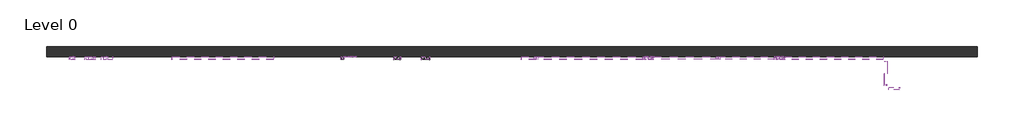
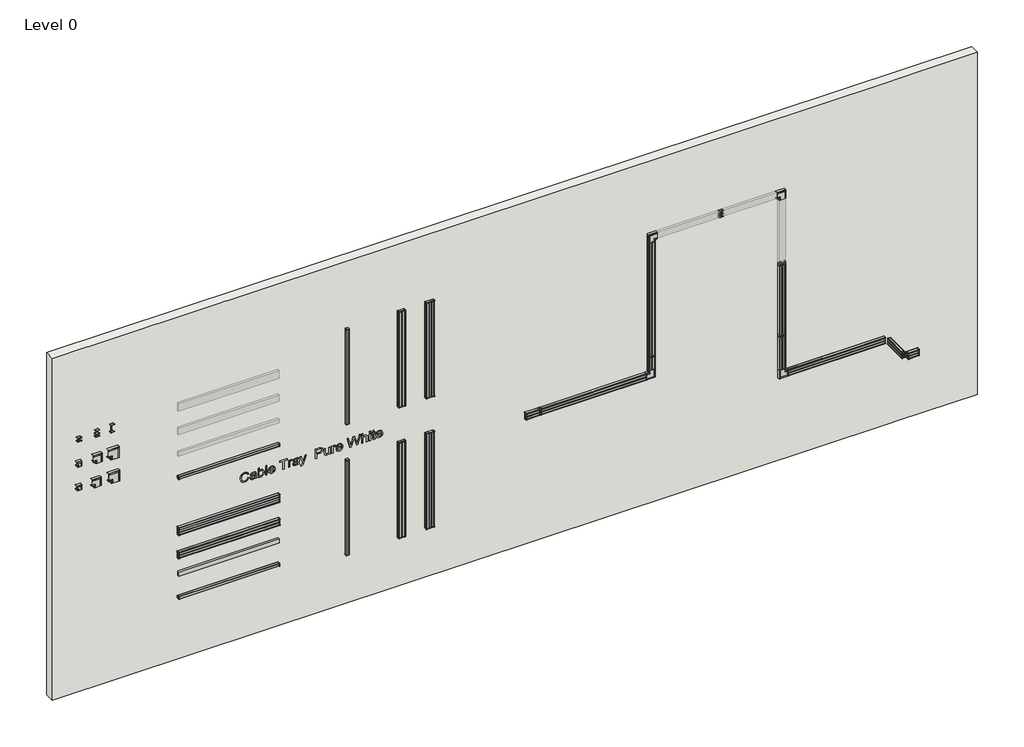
# One storey, incomplete: 20 cable carrier segments, 20 proxies, 18 cable carrier fittings, 1 wall.
"""IFC4 building model written with IfcOpenShell, lengths in millimetres."""

from ifc_helpers import new_model, si_unit, frame, origin, place, context, project, spatial, polyline, outline, extrude, faceted_brep, transform, mapped, element, save
from components import natural_anodized_aluminium_24a87ea1, natural_anodized_aluminium_b63ba4a8, natural_anodized_aluminium_cb93105c, natural_anodized_aluminium_039d2869, natural_anodized_aluminium_3c063e0a, natural_anodized_aluminium_cf1d3b34, natural_anodized_aluminium_76fae776, natural_anodized_aluminium_1c32bed1, natural_anodized_aluminium_2c81c147, natural_anodized_aluminium_9d60b319, natural_anodized_aluminium_06e3204e, natural_anodized_aluminium_e942fa28, natural_anodized_aluminium_e169edea, natural_anodized_aluminium_261b038a, natural_anodized_aluminium_ffbb5359, natural_anodized_aluminium_de79a6d9, ral_9011_black_7d60d0b3, ral_9011_black_1f146644, ral_9011_black_cd5e6a1d

model = new_model("IFC4")

# Units and contexts
model_context = context("Model", 3, world=origin())
ifc_project = project(units=[si_unit("LENGTHUNIT", "METRE", prefix="MILLI")], contexts=[model_context])

# Site, building, storey
site = spatial("IfcSite", under=ifc_project)
building = spatial("IfcBuilding", under=site)
storey = spatial("IfcBuildingStorey", under=building, Name="Level 0", Elevation=0.0)

# Proxies
placement = place(None, origin())
element("IfcBuildingElementProxy", 1, Name="200mm Arial", ObjectType="200mm Arial", at=placement, inside=storey, context=model_context, shape_type="SweptSolid", body=[
    extrude(outline(polyline([(3330.4407483, -13810.5435834), (3309.3590175, -13818.5063238), (3294.1907483, -13831.4330065), (3285.0320944, -13848.5544007), (3281.9792098, -13869.1012757), (3284.2207964, -13886.7274776), (3290.945556, -13903.0676219), (3302.2015656, -13916.6974296), (3318.0369021, -13926.1926219), (3337.7003637, -13931.7635353), (3360.4407483, -13933.6205065), (3379.0104598, -13932.0519969), (3397.0272868, -13927.346468), (3412.9647868, -13918.7707469), (3425.2965175, -13905.5916603), (3433.1931521, -13888.2238719), (3435.8253637, -13867.082045), (3433.4515656, -13848.7406988), (3426.3301714, -13833.8128142), (3414.0164694, -13822.1541603), (3396.0657483, -13813.6205065), (3401.9311329, -13789.0051219), (3426.6426714, -13799.8765161), (3445.1042098, -13816.8176219), (3456.6066137, -13839.1313238), (3460.4407483, -13866.1205065), (3457.4780079, -13890.8560834), (3448.5897868, -13913.4281988), (3433.992431, -13932.4606507), (3413.9022868, -13946.5772373), (3389.1066137, -13955.3212276), (3360.3926714, -13958.2358911), (3333.1691137, -13955.6577661), (3307.7484406, -13947.9233911), (3286.1258444, -13935.2551219), (3270.2965175, -13917.8753142), (3260.5969983, -13895.2010353), (3257.3638252, -13866.6493526), (3261.6366618, -13838.5243526), (3274.4551714, -13815.1108911), (3295.4107002, -13797.2863719), (3324.0945944, -13785.9281988), (3330.4407483, -13810.5435834)])), frame((0.0, 2566.5081828, 0.0), z_axis=(0.0, 1.0, 0.0), x_axis=(0.0, 0.0, 1.0)), (0.0, 0.0, 1.0), 5.0),
    extrude(outline(polyline([(3278.9022868, -13662.8512757), (3260.4407483, -13656.6974296), (3260.4407483, -13632.082045), (3281.1378637, -13636.9858911), (3323.9022868, -13638.2358911), (3354.5272868, -13638.2358911), (3376.0657483, -13639.4378142), (3392.7724791, -13646.9858911), (3403.758056, -13663.8368526), (3408.133056, -13693.6685834), (3403.1811329, -13726.144545), (3397.1835368, -13738.5123334), (3389.0945944, -13747.5868526), (3365.0561329, -13758.2358911), (3361.9792098, -13733.6205065), (3372.2135848, -13728.7286796), (3378.7820944, -13721.7455065), (3383.5176714, -13696.8416603), (3381.7388252, -13681.0003142), (3376.4022868, -13669.6301219), (3369.2147868, -13664.5459873), (3358.2292098, -13662.8512757), (3352.7484406, -13662.9955065), (3344.2869021, -13705.6878142), (3340.5849791, -13726.9858911), (3332.508056, -13744.221468), (3318.3734406, -13756.6012757), (3298.9022868, -13761.3128142), (3282.351806, -13758.1938238), (3269.0465175, -13748.8368526), (3260.2844983, -13733.6625738), (3257.3638252, -13713.0916603), (3262.2195944, -13686.721468), (3278.9022868, -13662.8512757)]), holes=[polyline([(3328.133056, -13662.8512757), (3321.1619021, -13662.9955065), (3302.1234406, -13666.8897373), (3287.8686329, -13682.9474296), (3283.4515656, -13694.6301219), (3281.9792098, -13707.8512757), (3283.3133444, -13720.3212276), (3287.3157483, -13729.3656988), (3293.3133444, -13734.8644969), (3300.633056, -13736.6974296), (3310.1042098, -13733.332045), (3316.5945944, -13723.7406988), (3320.5849791, -13702.5628142), (3328.133056, -13662.8512757)])]), frame((0.0, 2566.5081828, 0.0), z_axis=(0.0, 1.0, 0.0), x_axis=(0.0, 0.0, 1.0)), (0.0, 0.0, 1.0), 5.0),
    extrude(outline(polyline([(3260.4407483, -13579.7743526), (3283.4695944, -13579.7743526), (3263.8902675, -13563.1517565), (3258.9954358, -13552.8662998), (3257.3638252, -13541.2647373), (3262.4239214, -13518.3260353), (3277.6042098, -13498.9330065), (3302.0513252, -13485.7178623), (3334.9119021, -13481.3128142), (3364.2628637, -13485.5676219), (3387.7003637, -13497.3224296), (3402.7724791, -13516.457045), (3408.133056, -13541.1205065), (3402.1835368, -13562.5387757), (3384.3349791, -13579.7743526), (3457.3638252, -13579.7743526), (3457.3638252, -13604.3897373), (3260.4407483, -13604.3897373), (3260.4407483, -13579.7743526)]), holes=[polyline([(3333.758056, -13579.7743526), (3355.0921906, -13576.9979103), (3370.7292098, -13568.6685834), (3380.320556, -13556.5291603), (3383.5176714, -13542.3224296), (3380.4287291, -13528.3380546), (3371.1619021, -13516.5772373), (3355.4167098, -13508.5904584), (3332.8926714, -13505.9281988), (3310.6931521, -13508.7046411), (3294.7676714, -13517.033968), (3285.1763252, -13529.1733911), (3281.9792098, -13543.3801219), (3286.3181521, -13560.1469488), (3299.3349791, -13573.0435834), (3313.2292098, -13578.0916603), (3333.758056, -13579.7743526)])]), frame((0.0, 2566.5081828, 0.0), z_axis=(0.0, 1.0, 0.0), x_axis=(0.0, 0.0, 1.0)), (0.0, 0.0, 1.0), 5.0),
    extrude(outline(polyline([(-13429.0051219, 2566.5081828), (-13453.6205065, 2566.5081828), (-13453.6205065, 2571.5081828), (-13429.0051219, 2571.5081828), (-13429.0051219, 2566.5081828)])), frame((0.0, 0.0, 3260.4407483), z_axis=(0.0, 0.0, 1.0), x_axis=(1.0, 0.0, 0.0)), (0.0, 0.0, 1.0), 196.9230769),
    extrude(outline(polyline([(3303.5176714, -13290.832045), (3293.7941137, -13297.7310834), (3287.1234406, -13306.6974296), (3281.9792098, -13330.832045), (3284.7556521, -13348.25392), (3293.0849791, -13362.5387757), (3306.6306521, -13372.4366123), (3325.0561329, -13376.6974296), (3325.0561329, -13266.0724296), (3331.6907483, -13265.9281988), (3363.9623829, -13270.59767), (3388.0849791, -13284.6060834), (3403.1210368, -13305.9702661), (3408.133056, -13332.707045), (3403.1090175, -13360.3031988), (3388.0369021, -13382.2262757), (3363.8662291, -13396.5411796), (3331.5465175, -13401.3128142), (3300.2784887, -13396.5892565), (3276.8590175, -13382.4185834), (3262.2376233, -13360.1950257), (3257.3638252, -13331.3128142), (3260.1883444, -13308.0135353), (3268.6619021, -13289.269545), (3282.2556521, -13275.393343), (3300.4407483, -13266.6974296), (3303.5176714, -13290.832045)]), holes=[polyline([(3349.6715175, -13376.6974296), (3363.5477194, -13372.6529584), (3374.3109406, -13363.1156988), (3381.2159887, -13349.3957469), (3383.5176714, -13332.8031988), (3380.633056, -13314.7503142), (3371.9792098, -13300.3993526), (3362.6763252, -13293.8729103), (3349.6715175, -13290.5435834), (3349.6715175, -13376.6974296)])]), frame((0.0, 2566.5081828, 0.0), z_axis=(0.0, 1.0, 0.0), x_axis=(0.0, 0.0, 1.0)), (0.0, 0.0, 1.0), 5.0),
    extrude(outline(polyline([(3260.4407483, -13112.082045), (3260.4407483, -13087.4666603), (3432.7484406, -13087.4666603), (3432.7484406, -13022.8512757), (3457.3638252, -13022.8512757), (3457.3638252, -13176.6974296), (3432.7484406, -13176.6974296), (3432.7484406, -13112.082045), (3260.4407483, -13112.082045)])), frame((0.0, 2566.5081828, 0.0), z_axis=(0.0, 1.0, 0.0), x_axis=(0.0, 0.0, 1.0)), (0.0, 0.0, 1.0), 5.0),
    extrude(outline(polyline([(3260.4407483, -12998.2358911), (3260.4407483, -12973.6205065), (3336.4503637, -12973.6205065), (3365.2003637, -12969.6301219), (3378.6619021, -12960.7599296), (3383.5176714, -12946.8416603), (3378.4695944, -12929.533968), (3400.5369021, -12921.3128142), (3406.2340175, -12933.7647373), (3408.133056, -12946.0243526), (3403.3734406, -12961.408968), (3383.6619021, -12976.6974296), (3405.0561329, -12976.6974296), (3405.0561329, -12998.2358911), (3260.4407483, -12998.2358911)])), frame((0.0, 2566.5081828, 0.0), z_axis=(0.0, 1.0, 0.0), x_axis=(0.0, 0.0, 1.0)), (0.0, 0.0, 1.0), 5.0),
    extrude(outline(polyline([(3278.9022868, -12813.6205065), (3260.4407483, -12807.4666603), (3260.4407483, -12782.8512757), (3281.1378637, -12787.7551219), (3323.9022868, -12789.0051219), (3354.5272868, -12789.0051219), (3376.0657483, -12790.207045), (3392.7724791, -12797.7551219), (3403.758056, -12814.6060834), (3408.133056, -12844.4378142), (3403.1811329, -12876.9137757), (3397.1835368, -12889.2815642), (3389.0945944, -12898.3560834), (3365.0561329, -12909.0051219), (3361.9792098, -12884.3897373), (3372.2135848, -12879.4979103), (3378.7820944, -12872.5147373), (3383.5176714, -12847.6108911), (3381.7388252, -12831.769545), (3376.4022868, -12820.3993526), (3369.2147868, -12815.315218), (3358.2292098, -12813.6205065), (3352.7484406, -12813.7647373), (3344.2869021, -12856.457045), (3340.5849791, -12877.7551219), (3332.508056, -12894.9906988), (3318.3734406, -12907.3705065), (3298.9022868, -12912.082045), (3282.351806, -12908.9630546), (3269.0465175, -12899.6060834), (3260.2844983, -12884.4318046), (3257.3638252, -12863.8608911), (3262.2195944, -12837.4906988), (3278.9022868, -12813.6205065)]), holes=[polyline([(3328.133056, -12813.6205065), (3321.1619021, -12813.7647373), (3302.1234406, -12817.658968), (3287.8686329, -12833.7166603), (3283.4515656, -12845.3993526), (3281.9792098, -12858.6205065), (3283.3133444, -12871.0904584), (3287.3157483, -12880.1349296), (3293.3133444, -12885.6337276), (3300.633056, -12887.4666603), (3310.1042098, -12884.1012757), (3316.5945944, -12874.5099296), (3320.5849791, -12853.332045), (3328.133056, -12813.6205065)])]), frame((0.0, 2566.5081828, 0.0), z_axis=(0.0, 1.0, 0.0), x_axis=(0.0, 0.0, 1.0)), (0.0, 0.0, 1.0), 5.0),
    extrude(outline(polyline([(3205.0561329, -12755.158968), (3201.9792098, -12740.1108911), (3207.508056, -12720.9281988), (3224.8638252, -12706.6493526), (3256.9792098, -12693.5724296), (3405.0561329, -12643.2358911), (3405.0561329, -12669.0051219), (3321.0176714, -12697.5147373), (3292.6522868, -12707.1781988), (3324.7676714, -12716.8416603), (3405.0561329, -12744.582045), (3405.0561329, -12770.5435834), (3260.9695944, -12718.2358911), (3255.008056, -12720.158968), (3236.883056, -12726.8897373), (3229.3109406, -12734.0531988), (3226.5945944, -12745.7358911), (3228.758056, -12758.2358911), (3205.0561329, -12755.158968)])), frame((0.0, 2566.5081828, 0.0), z_axis=(0.0, 1.0, 0.0), x_axis=(0.0, 0.0, 1.0)), (0.0, 0.0, 1.0), 5.0),
    extrude(outline(polyline([(3260.4407483, -12465.9281988), (3260.4407483, -12441.3128142), (3340.4407483, -12441.3128142), (3340.4407483, -12391.2647373), (3344.7917098, -12356.2947853), (3350.2304118, -12343.5919608), (3357.8445944, -12334.0772373), (3377.1835368, -12322.1962276), (3400.3926714, -12318.2358911), (3427.2436329, -12324.1012757), (3438.1210368, -12330.91017), (3446.2820944, -12339.6060834), (3455.4888252, -12363.5243526), (3457.3638252, -12392.9474296), (3457.3638252, -12465.9281988), (3260.4407483, -12465.9281988)]), holes=[polyline([(3365.0561329, -12441.3128142), (3432.7484406, -12441.3128142), (3432.7484406, -12390.3993526), (3431.0657483, -12365.783968), (3426.9311329, -12356.487093), (3419.9119021, -12349.1733911), (3410.5849791, -12344.4318046), (3399.5272868, -12342.8512757), (3384.9719983, -12345.5315642), (3374.0945944, -12353.5724296), (3367.3157483, -12367.9955065), (3365.0561329, -12389.8224296), (3365.0561329, -12441.3128142)])]), frame((0.0, 2566.5081828, 0.0), z_axis=(0.0, 1.0, 0.0), x_axis=(0.0, 0.0, 1.0)), (0.0, 0.0, 1.0), 5.0),
    extrude(outline(polyline([(3260.4407483, -12195.158968), (3260.4407483, -12170.5435834), (3405.0561329, -12170.5435834), (3405.0561329, -12195.158968), (3329.8157483, -12195.158968), (3302.3878637, -12199.1493526), (3293.9323348, -12204.5399776), (3287.4599791, -12212.7310834), (3281.9792098, -12233.283968), (3287.3397868, -12251.6253142), (3293.7039694, -12257.7731507), (3302.0753637, -12261.3608911), (3327.1715175, -12262.8512757), (3405.0561329, -12262.8512757), (3405.0561329, -12287.4666603), (3315.5849791, -12287.4666603), (3292.7003637, -12286.0243526), (3274.5753637, -12278.6926219), (3262.2676714, -12262.7310834), (3257.3638252, -12239.582045), (3259.1096185, -12226.2767565), (3264.3469983, -12214.4378142), (3273.0759646, -12204.065218), (3285.2965175, -12195.158968), (3260.4407483, -12195.158968)])), frame((0.0, 2566.5081828, 0.0), z_axis=(0.0, 1.0, 0.0), x_axis=(0.0, 0.0, 1.0)), (0.0, 0.0, 1.0), 5.0),
    extrude(outline(polyline([(3260.4407483, -12136.6974296), (3260.4407483, -12112.082045), (3336.4503637, -12112.082045), (3365.2003637, -12108.0916603), (3378.6619021, -12099.221468), (3383.5176714, -12085.3031988), (3378.4695944, -12067.9955065), (3400.5369021, -12059.7743526), (3406.2340175, -12072.2262757), (3408.133056, -12084.4858911), (3403.3734406, -12099.8705065), (3383.6619021, -12115.158968), (3405.0561329, -12115.158968), (3405.0561329, -12136.6974296), (3260.4407483, -12136.6974296)])), frame((0.0, 2566.5081828, 0.0), z_axis=(0.0, 1.0, 0.0), x_axis=(0.0, 0.0, 1.0)), (0.0, 0.0, 1.0), 5.0),
    extrude(outline(polyline([(3303.5176714, -11943.1397373), (3293.7941137, -11950.0387757), (3287.1234406, -11959.0051219), (3281.9792098, -11983.1397373), (3284.7556521, -12000.5616123), (3293.0849791, -12014.846468), (3306.6306521, -12024.7443046), (3325.0561329, -12029.0051219), (3325.0561329, -11918.3801219), (3331.6907483, -11918.2358911), (3363.9623829, -11922.9053623), (3388.0849791, -11936.9137757), (3403.1210368, -11958.2779584), (3408.133056, -11985.0147373), (3403.1090175, -12012.6108911), (3388.0369021, -12034.533968), (3363.8662291, -12048.8488719), (3331.5465175, -12053.6205065), (3300.2784887, -12048.8969488), (3276.8590175, -12034.7262757), (3262.2376233, -12012.502718), (3257.3638252, -11983.6205065), (3260.1883444, -11960.3212276), (3268.6619021, -11941.5772373), (3282.2556521, -11927.7010353), (3300.4407483, -11919.0051219), (3303.5176714, -11943.1397373)]), holes=[polyline([(3349.6715175, -12029.0051219), (3363.5477194, -12024.9606507), (3374.3109406, -12015.4233911), (3381.2159887, -12001.7034392), (3383.5176714, -11985.1108911), (3380.633056, -11967.0580065), (3371.9792098, -11952.707045), (3362.6763252, -11946.1806026), (3349.6715175, -11942.8512757), (3349.6715175, -12029.0051219)])]), frame((0.0, 2566.5081828, 0.0), z_axis=(0.0, 1.0, 0.0), x_axis=(0.0, 0.0, 1.0)), (0.0, 0.0, 1.0), 5.0),
    extrude(outline(polyline([(3260.4407483, -11778.3801219), (3260.4407483, -11748.6685834), (3408.0369021, -11705.6397373), (3433.5657483, -11698.2358911), (3412.3638252, -11691.6493526), (3260.4407483, -11644.4378142), (3260.4407483, -11618.1397373), (3457.3638252, -11564.3897373), (3457.3638252, -11589.7743526), (3326.7869021, -11621.2166603), (3287.9888252, -11630.5435834), (3360.2003637, -11651.6493526), (3457.3638252, -11680.0147373), (3457.3638252, -11716.6012757), (3323.3253637, -11755.6397373), (3287.9888252, -11765.9281988), (3327.9407483, -11775.5435834), (3457.3638252, -11806.6974296), (3457.3638252, -11832.082045), (3260.4407483, -11778.3801219)])), frame((0.0, 2566.5081828, 0.0), z_axis=(0.0, 1.0, 0.0), x_axis=(0.0, 0.0, 1.0)), (0.0, 0.0, 1.0), 5.0),
    extrude(outline(polyline([(3260.4407483, -11542.8512757), (3260.4407483, -11518.2358911), (3337.2676714, -11518.2358911), (3363.1811329, -11514.221468), (3371.5825752, -11508.8488719), (3378.0369021, -11500.7599296), (3383.5176714, -11480.5916603), (3381.4864214, -11467.8512757), (3375.3926714, -11458.3801219), (3364.8397868, -11452.502718), (3349.4311329, -11450.5435834), (3260.4407483, -11450.5435834), (3260.4407483, -11425.9281988), (3351.9792098, -11425.9281988), (3370.6691137, -11427.190218), (3384.3349791, -11430.9762757), (3394.2808925, -11437.6950257), (3401.8109406, -11447.7551219), (3406.5525271, -11460.5315642), (3408.133056, -11475.3993526), (3402.3397868, -11499.0411796), (3384.9599791, -11518.2358911), (3457.3638252, -11518.2358911), (3457.3638252, -11542.8512757), (3260.4407483, -11542.8512757)])), frame((0.0, 2566.5081828, 0.0), z_axis=(0.0, 1.0, 0.0), x_axis=(0.0, 0.0, 1.0)), (0.0, 0.0, 1.0), 5.0),
    extrude(outline(polyline([(-11367.4666603, 2566.5081828), (-11392.082045, 2566.5081828), (-11392.082045, 2571.5081828), (-11367.4666603, 2571.5081828), (-11367.4666603, 2566.5081828)])), frame((0.0, 0.0, 3432.7484406), z_axis=(0.0, 0.0, 1.0), x_axis=(1.0, 0.0, 0.0)), (0.0, 0.0, 1.0), 24.6153846),
    extrude(outline(polyline([(-11367.4666603, 2566.5081828), (-11392.082045, 2566.5081828), (-11392.082045, 2571.5081828), (-11367.4666603, 2571.5081828), (-11367.4666603, 2566.5081828)])), frame((0.0, 0.0, 3260.4407483), z_axis=(0.0, 0.0, 1.0), x_axis=(1.0, 0.0, 0.0)), (0.0, 0.0, 1.0), 144.6153846),
    extrude(outline(polyline([(3280.9695944, -11278.2358911), (3281.9792098, -11288.957045), (3283.6378637, -11297.346468), (3288.133056, -11301.5531988), (3300.8253637, -11302.8512757), (3380.4407483, -11302.8512757), (3380.4407483, -11278.2358911), (3405.0561329, -11278.2358911), (3405.0561329, -11302.8512757), (3454.6715175, -11302.8512757), (3440.2003637, -11327.4666603), (3405.0561329, -11327.4666603), (3405.0561329, -11345.9281988), (3380.4407483, -11345.9281988), (3380.4407483, -11327.4666603), (3300.1042098, -11327.4666603), (3272.1715175, -11324.4858911), (3261.4503637, -11314.1974296), (3257.3638252, -11293.5724296), (3259.7195944, -11275.158968), (3280.9695944, -11278.2358911)])), frame((0.0, 2566.5081828, 0.0), z_axis=(0.0, 1.0, 0.0), x_axis=(0.0, 0.0, 1.0)), (0.0, 0.0, 1.0), 5.0),
    extrude(outline(polyline([(3303.5176714, -11152.3705065), (3293.7941137, -11159.269545), (3287.1234406, -11168.2358911), (3281.9792098, -11192.3705065), (3284.7556521, -11209.7923815), (3293.0849791, -11224.0772373), (3306.6306521, -11233.9750738), (3325.0561329, -11238.2358911), (3325.0561329, -11127.6108911), (3331.6907483, -11127.4666603), (3363.9623829, -11132.1361315), (3388.0849791, -11146.144545), (3403.1210368, -11167.5087276), (3408.133056, -11194.2455065), (3403.1090175, -11221.8416603), (3388.0369021, -11243.7647373), (3363.8662291, -11258.0796411), (3331.5465175, -11262.8512757), (3300.2784887, -11258.127718), (3276.8590175, -11243.957045), (3262.2376233, -11221.7334873), (3257.3638252, -11192.8512757), (3260.1883444, -11169.5519969), (3268.6619021, -11150.8080065), (3282.2556521, -11136.9318046), (3300.4407483, -11128.2358911), (3303.5176714, -11152.3705065)]), holes=[polyline([(3349.6715175, -11238.2358911), (3363.5477194, -11234.19142), (3374.3109406, -11224.6541603), (3381.2159887, -11210.9342084), (3383.5176714, -11194.3416603), (3380.633056, -11176.2887757), (3371.9792098, -11161.9378142), (3362.6763252, -11155.4113719), (3349.6715175, -11152.082045), (3349.6715175, -11238.2358911)])]), frame((0.0, 2566.5081828, 0.0), z_axis=(0.0, 1.0, 0.0), x_axis=(0.0, 0.0, 1.0)), (0.0, 0.0, 1.0), 5.0),
])
natural_anodized_aluminium_shape = natural_anodized_aluminium_24a87ea1(model_context)
element("IfcBuildingElementProxy", 2, Name="Electrical_Installations_Hager_GBA-Flat-Lid-End-Cap : Natural Anodized Aluminium", ObjectType="Electrical_Installations_Hager_GBA-Flat-Lid-End-Cap : Natural Anodized Aluminium", at=placement, inside=storey, context=model_context, shape_type="MappedRepresentation", body=[
    mapped(natural_anodized_aluminium_shape, transform((-10205.0321542, 2571.5260198, 5794.6645405), x_axis=(0.0, 0.0, -1.0), y_axis=(1.0, 0.0, 0.0), z_axis=(0.0, -1.0, 0.0))),
])
natural_anodized_aluminium_2_shape = natural_anodized_aluminium_b63ba4a8(model_context)
element("IfcBuildingElementProxy", 3, Name="Electrical_Installations_Hager_GBA-Flat-Lid-End-Cap : Natural Anodized Aluminium", ObjectType="Electrical_Installations_Hager_GBA-Flat-Lid-End-Cap : Natural Anodized Aluminium", at=placement, inside=storey, context=model_context, shape_type="MappedRepresentation", body=[
    mapped(natural_anodized_aluminium_2_shape, transform((-11845.0321542, 2571.5260198, 5794.6645405), x_axis=(0.0, 0.0, -1.0), y_axis=(1.0, 0.0, 0.0), z_axis=(0.0, -1.0, 0.0))),
])
element("IfcBuildingElementProxy", 4, Name="Electrical_Installations_Hager_GBA-Flat-Lid-End-Cap : Natural Anodized Aluminium", ObjectType="Electrical_Installations_Hager_GBA-Flat-Lid-End-Cap : Natural Anodized Aluminium", at=placement, inside=storey, context=model_context, shape_type="MappedRepresentation", body=[
    mapped(natural_anodized_aluminium_2_shape, transform((-15206.2821542, 2571.5260198, 3835.9145405), x_axis=(1.0, 0.0, 0.0), y_axis=(0.0, 0.0, 1.0), z_axis=(0.0, -1.0, 0.0))),
])
natural_anodized_aluminium_3_shape = natural_anodized_aluminium_cb93105c(model_context)
element("IfcBuildingElementProxy", 5, Name="Electrical_Installations_Hager_GBA-Flat-Lid-End-Cap : Natural Anodized Aluminium", ObjectType="Electrical_Installations_Hager_GBA-Flat-Lid-End-Cap : Natural Anodized Aluminium", at=placement, inside=storey, context=model_context, shape_type="MappedRepresentation", body=[
    mapped(natural_anodized_aluminium_3_shape, transform((-10765.0321542, 2571.5260198, 5794.6645405), x_axis=(0.0, 0.0, -1.0), y_axis=(1.0, 0.0, 0.0), z_axis=(0.0, -1.0, 0.0))),
])
natural_anodized_aluminium_4_shape = natural_anodized_aluminium_039d2869(model_context)
element("IfcBuildingElementProxy", 6, Name="Electrical_Installations_Hager_GBA-Flat-Lid-End-Cap : Natural Anodized Aluminium", ObjectType="Electrical_Installations_Hager_GBA-Flat-Lid-End-Cap : Natural Anodized Aluminium", at=placement, inside=storey, context=model_context, shape_type="MappedRepresentation", body=[
    mapped(natural_anodized_aluminium_4_shape, transform((-3201.163518, 2571.5081828, 4128.9145405), x_axis=(0.0, 0.0, -1.0), y_axis=(1.0, 0.0, 0.0), z_axis=(0.0, -1.0, 0.0))),
])
natural_anodized_aluminium_5_shape = natural_anodized_aluminium_3c063e0a(model_context)
element("IfcBuildingElementProxy", 7, Name="Electrical_Installations_Hager_GBA-Flat-Lid-End-Cap : Natural Anodized Aluminium", ObjectType="Electrical_Installations_Hager_GBA-Flat-Lid-End-Cap : Natural Anodized Aluminium", at=placement, inside=storey, context=model_context, shape_type="MappedRepresentation", body=[
    mapped(natural_anodized_aluminium_5_shape, transform((-3201.163518, 2571.5081828, 2627.9145405), x_axis=(0.0, 0.0, -1.0), y_axis=(1.0, 0.0, 0.0), z_axis=(0.0, -1.0, 0.0))),
])
natural_anodized_aluminium_6_shape = natural_anodized_aluminium_cf1d3b34(model_context)
element("IfcBuildingElementProxy", 8, Name="Electrical_Installations_Hager_GBA-Flat-Lid-End-Cap : Natural Anodized Aluminium", ObjectType="Electrical_Installations_Hager_GBA-Flat-Lid-End-Cap : Natural Anodized Aluminium", at=placement, inside=storey, context=model_context, shape_type="MappedRepresentation", body=[
    mapped(natural_anodized_aluminium_6_shape, transform((-5801.163518, 2571.5081828, 2815.4145405), x_axis=(0.0, 0.0, 1.0), y_axis=(-1.0, 0.0, 0.0), z_axis=(0.0, -1.0, 0.0))),
])
natural_anodized_aluminium_7_shape = natural_anodized_aluminium_76fae776(model_context)
element("IfcBuildingElementProxy", 9, Name="Electrical_Installations_Hager_GBA-Flat-Lid-End-Cap : Natural Anodized Aluminium", ObjectType="Electrical_Installations_Hager_GBA-Flat-Lid-End-Cap : Natural Anodized Aluminium", at=placement, inside=storey, context=model_context, shape_type="MappedRepresentation", body=[
    mapped(natural_anodized_aluminium_7_shape, transform((-5801.163518, 2571.5081828, 3102.9145405), x_axis=(0.0, 0.0, 1.0), y_axis=(-1.0, 0.0, 0.0), z_axis=(0.0, -1.0, 0.0))),
])
natural_anodized_aluminium_8_shape = natural_anodized_aluminium_1c32bed1(model_context)
element("IfcBuildingElementProxy", 10, Name="Electrical_Installations_Hager_GBA-Flat-Lid-End-Cap : Natural Anodized Aluminium", ObjectType="Electrical_Installations_Hager_GBA-Flat-Lid-End-Cap : Natural Anodized Aluminium", at=placement, inside=storey, context=model_context, shape_type="MappedRepresentation", body=[
    mapped(natural_anodized_aluminium_8_shape, transform((-8301.163518, 2571.5081828, 2715.9145405), x_axis=(1.0, 0.0, 0.0), y_axis=(0.0, 0.0, 1.0), z_axis=(0.0, -1.0, 0.0))),
])
natural_anodized_aluminium_9_shape = natural_anodized_aluminium_2c81c147(model_context)
element("IfcBuildingElementProxy", 11, Name="Electrical_Installations_Hager_GBA-Flat-Lid-End-Cap : Natural Anodized Aluminium", ObjectType="Electrical_Installations_Hager_GBA-Flat-Lid-End-Cap : Natural Anodized Aluminium", at=placement, inside=storey, context=model_context, shape_type="MappedRepresentation", body=[
    mapped(natural_anodized_aluminium_9_shape, transform((-8013.663518, 2571.5081828, 2715.9145405), x_axis=(1.0, 0.0, 0.0), y_axis=(0.0, 0.0, 1.0), z_axis=(0.0, -1.0, 0.0))),
])
natural_anodized_aluminium_10_shape = natural_anodized_aluminium_9d60b319(model_context)
element("IfcBuildingElementProxy", 12, Name="Electrical_Installations_Hager_GBA-Flat-Lid-End-Cap : Natural Anodized Aluminium", ObjectType="Electrical_Installations_Hager_GBA-Flat-Lid-End-Cap : Natural Anodized Aluminium", at=placement, inside=storey, context=model_context, shape_type="MappedRepresentation", body=[
    mapped(natural_anodized_aluminium_10_shape, transform((-1076.3370042, 2477.1045423, 1815.8860489), x_axis=(2.1769319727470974e-10, -0.9999999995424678, 3.0250034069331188e-05), y_axis=(0.0, 3.0250034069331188e-05, 0.9999999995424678), z_axis=(-1.0, -2.176931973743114e-10, 0.0))),
])
natural_anodized_aluminium_11_shape = natural_anodized_aluminium_06e3204e(model_context)
element("IfcBuildingElementProxy", 13, Name="Electrical_Installations_Hager_GBA-Flat-Lid-End-Cap : Natural Anodized Aluminium", ObjectType="Electrical_Installations_Hager_GBA-Flat-Lid-End-Cap : Natural Anodized Aluminium", at=placement, inside=storey, context=model_context, shape_type="MappedRepresentation", body=[
    mapped(natural_anodized_aluminium_11_shape, transform((-1050.7383962, 1971.5081828, 1815.8999999), x_axis=(1.0, 0.0, 2.5072030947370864e-10), y_axis=(-2.5072030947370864e-10, 0.0, 1.0), z_axis=(0.0, -1.0, 0.0))),
])
natural_anodized_aluminium_12_shape = natural_anodized_aluminium_e942fa28(model_context)
element("IfcBuildingElementProxy", 14, Name="Electrical_Installations_Hager_GBA-Flat-Lid-End-Cap : Natural Anodized Aluminium", ObjectType="Electrical_Installations_Hager_GBA-Flat-Lid-End-Cap : Natural Anodized Aluminium", at=placement, inside=storey, context=model_context, shape_type="MappedRepresentation", body=[
    mapped(natural_anodized_aluminium_12_shape, transform((-3101.663518, 2571.5081828, 1815.9003644), x_axis=(0.999999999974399, 0.0, -7.155560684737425e-06), y_axis=(7.155560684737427e-06, 0.0, 0.9999999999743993), z_axis=(0.0, -1.0000000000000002, 0.0))),
])
element("IfcBuildingElementProxy", 15, Name="Electrical_Installations_Hager_GBA-Flat-Lid-End-Cap : RAL 9010 - pure white", ObjectType="Electrical_Installations_Hager_GBA-Flat-Lid-End-Cap : RAL 9010 - pure white", at=placement, inside=storey, context=model_context, shape_type="MappedRepresentation", body=[
    mapped(natural_anodized_aluminium_shape, transform((-15206.2821542, 2571.5260198, 2715.9145405), x_axis=(1.0, 0.0, 0.0), y_axis=(0.0, 0.0, 1.0), z_axis=(0.0, -1.0, 0.0))),
])
element("IfcBuildingElementProxy", 16, Name="Electrical_Installations_Hager_GBA-Flat-Lid-End-Cap : RAL 9010 - pure white", ObjectType="Electrical_Installations_Hager_GBA-Flat-Lid-End-Cap : RAL 9010 - pure white", at=placement, inside=storey, context=model_context, shape_type="MappedRepresentation", body=[
    mapped(natural_anodized_aluminium_shape, transform((-10205.0321542, 2571.5260198, 3043.4145405), x_axis=(0.0, 0.0, -1.0), y_axis=(1.0, 0.0, 0.0), z_axis=(0.0, -1.0, 0.0))),
])
element("IfcBuildingElementProxy", 17, Name="Electrical_Installations_Hager_GBA-Flat-Lid-End-Cap : RAL 9010 - pure white", ObjectType="Electrical_Installations_Hager_GBA-Flat-Lid-End-Cap : RAL 9010 - pure white", at=placement, inside=storey, context=model_context, shape_type="MappedRepresentation", body=[
    mapped(natural_anodized_aluminium_3_shape, transform((-15206.2821542, 2571.5260198, 2215.9145405), x_axis=(1.0, 0.0, 0.0), y_axis=(0.0, 0.0, 1.0), z_axis=(0.0, -1.0, 0.0))),
])
element("IfcBuildingElementProxy", 18, Name="Electrical_Installations_Hager_GBA-Flat-Lid-End-Cap : RAL 9010 - pure white", ObjectType="Electrical_Installations_Hager_GBA-Flat-Lid-End-Cap : RAL 9010 - pure white", at=placement, inside=storey, context=model_context, shape_type="MappedRepresentation", body=[
    mapped(natural_anodized_aluminium_3_shape, transform((-10765.0321542, 2571.5260198, 3043.4145405), x_axis=(0.0, 0.0, -1.0), y_axis=(1.0, 0.0, 0.0), z_axis=(0.0, -1.0, 0.0))),
])
element("IfcBuildingElementProxy", 19, Name="Electrical_Installations_Hager_GBA-Flat-Lid-End-Cap : RAL 9010 - pure white", ObjectType="Electrical_Installations_Hager_GBA-Flat-Lid-End-Cap : RAL 9010 - pure white", at=placement, inside=storey, context=model_context, shape_type="MappedRepresentation", body=[
    mapped(natural_anodized_aluminium_2_shape, transform((-15206.2821542, 2571.5260198, 1315.9145405), x_axis=(1.0, 0.0, 0.0), y_axis=(0.0, 0.0, 1.0), z_axis=(0.0, -1.0, 0.0))),
])
element("IfcBuildingElementProxy", 20, Name="Electrical_Installations_Hager_GBA-Flat-Lid-End-Cap : RAL 9010 - pure white", ObjectType="Electrical_Installations_Hager_GBA-Flat-Lid-End-Cap : RAL 9010 - pure white", at=placement, inside=storey, context=model_context, shape_type="MappedRepresentation", body=[
    mapped(natural_anodized_aluminium_2_shape, transform((-11845.0321542, 2571.5260198, 3043.4145405), x_axis=(0.0, 0.0, -1.0), y_axis=(1.0, 0.0, 0.0), z_axis=(0.0, -1.0, 0.0))),
])

# Cable carrier fittings
natural_anodized_aluminium_13_shape = natural_anodized_aluminium_e169edea(model_context)
element("IfcCableCarrierFitting", 21, ObjectType="Electrical_Installations_Hager_GBA-Flat-Corner-Vertical-Inside-And-Outside-Bend : Natural Anodized Aluminium", at=placement, inside=storey, context=model_context, shape_type="MappedRepresentation", body=[
    mapped(natural_anodized_aluminium_13_shape, transform((-5801.163518, 2546.5081828, 2715.9145405), x_axis=(1.0, 0.0, 0.0), y_axis=(0.0, 0.0, 1.0), z_axis=(0.0, -1.0, 0.0))),
])
element("IfcCableCarrierFitting", 22, ObjectType="Electrical_Installations_Hager_GBA-Flat-Corner-Vertical-Inside-And-Outside-Bend : Natural Anodized Aluminium", at=placement, inside=storey, context=model_context, shape_type="MappedRepresentation", body=[
    mapped(natural_anodized_aluminium_13_shape, transform((-3201.163518, 2546.5081828, 1815.9003644), x_axis=(0.0, 0.0, -1.0), y_axis=(1.0, 0.0, 0.0), z_axis=(0.0, -1.0, 0.0))),
])
natural_anodized_aluminium_14_shape = natural_anodized_aluminium_261b038a(model_context)
element("IfcCableCarrierFitting", 23, ObjectType="Electrical_Installations_Hager_GBA-Flat-Corner-Vertical-Inside-And-Outside-Bend : Natural Anodized Aluminium", at=placement, inside=storey, context=model_context, shape_type="MappedRepresentation", body=[
    mapped(natural_anodized_aluminium_14_shape, transform((-17179.9956063, 2543.9869518, 4340.0), x_axis=(1.0, 0.0, 0.0), y_axis=(0.0, 0.0, -1.0000000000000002), z_axis=(0.0, 1.0000000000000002, 0.0))),
])
natural_anodized_aluminium_15_shape = natural_anodized_aluminium_ffbb5359(model_context)
element("IfcCableCarrierFitting", 24, ObjectType="Electrical_Installations_Hager_GBA-Flat-Corner-Vertical-Inside-And-Outside-Bend : Natural Anodized Aluminium", at=placement, inside=storey, context=model_context, shape_type="MappedRepresentation", body=[
    mapped(natural_anodized_aluminium_15_shape, transform((-16824.4862827, 2543.9869518, 4340.0), x_axis=(1.0, 0.0, 0.0), y_axis=(0.0, 0.0, -1.0000000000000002), z_axis=(0.0, 1.0000000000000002, 0.0))),
])
element("IfcCableCarrierFitting", 25, ObjectType="Electrical_Installations_Hager_GBA-Flat-Corner-Vertical-Inside-And-Outside-Bend : Natural Anodized Aluminium", at=placement, inside=storey, context=model_context, shape_type="MappedRepresentation", body=[
    mapped(natural_anodized_aluminium_15_shape, transform((-5801.163518, 2546.5081828, 5615.9145405), x_axis=(0.0, 0.0, 1.0), y_axis=(1.0, 0.0, 0.0), z_axis=(0.0, 1.0, 0.0))),
])
element("IfcCableCarrierFitting", 26, ObjectType="Electrical_Installations_Hager_GBA-Flat-Corner-Vertical-Inside-And-Outside-Bend : Natural Anodized Aluminium", at=placement, inside=storey, context=model_context, shape_type="MappedRepresentation", body=[
    mapped(natural_anodized_aluminium_15_shape, transform((-3201.163518, 2546.5081828, 5615.9145405), x_axis=(1.0, 0.0, 0.0), y_axis=(0.0, 0.0, -1.0), z_axis=(0.0, 1.0, 0.0))),
])
natural_anodized_aluminium_16_shape = natural_anodized_aluminium_de79a6d9(model_context)
element("IfcCableCarrierFitting", 27, ObjectType="Electrical_Installations_Hager_GBA-Flat-Corner-Vertical-Inside-And-Outside-Bend : Natural Anodized Aluminium", at=placement, inside=storey, context=model_context, shape_type="MappedRepresentation", body=[
    mapped(natural_anodized_aluminium_16_shape, transform((-16468.9769592, 2543.9869518, 4340.0), x_axis=(1.0, 0.0, 0.0), y_axis=(0.0, 0.0, -1.0000000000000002), z_axis=(0.0, 1.0000000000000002, 0.0))),
])
element("IfcCableCarrierFitting", 28, ObjectType="Electrical_Installations_Hager_GBA-Flat-Corner-Vertical-Inside-And-Outside-Bend : RAL 9010 - pure white", at=placement, inside=storey, context=model_context, shape_type="MappedRepresentation", body=[
    mapped(natural_anodized_aluminium_14_shape, transform((-17179.9956063, 2543.9869518, 4840.0), x_axis=(1.0, 0.0, 0.0), y_axis=(0.0, 0.0, -1.0000000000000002), z_axis=(0.0, 1.0000000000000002, 0.0))),
])
element("IfcCableCarrierFitting", 29, ObjectType="Electrical_Installations_Hager_GBA-Flat-Corner-Vertical-Inside-And-Outside-Bend : RAL 9010 - pure white", at=placement, inside=storey, context=model_context, shape_type="MappedRepresentation", body=[
    mapped(natural_anodized_aluminium_15_shape, transform((-16801.3008921, 2543.9869518, 4840.0), x_axis=(1.0, 0.0, 0.0), y_axis=(0.0, 0.0, -1.0000000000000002), z_axis=(0.0, 1.0000000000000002, 0.0))),
])
element("IfcCableCarrierFitting", 30, ObjectType="Electrical_Installations_Hager_GBA-Flat-Corner-Vertical-Inside-And-Outside-Bend : RAL 9010 - pure white", at=placement, inside=storey, context=model_context, shape_type="MappedRepresentation", body=[
    mapped(natural_anodized_aluminium_16_shape, transform((-16476.7054227, 2543.9869518, 4840.0), x_axis=(1.0, 0.0, 0.0), y_axis=(0.0, 0.0, -1.0000000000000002), z_axis=(0.0, 1.0000000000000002, 0.0))),
])
ral_9011_black_shape = ral_9011_black_7d60d0b3(model_context)
element("IfcCableCarrierFitting", 31, ObjectType="Electrical_Installations_Hager_GBA-Coupling-Piece : RAL 9011 - black", at=placement, inside=storey, context=model_context, shape_type="MappedRepresentation", body=[
    mapped(ral_9011_black_shape, transform((-16532.8031138, 2543.9579263, 5340.0), x_axis=(1.0, 0.0, 0.0), y_axis=(0.0, 1.0, 0.0), z_axis=(0.0, 0.0, 1.0))),
])
ral_9011_black_2_shape = ral_9011_black_1f146644(model_context)
element("IfcCableCarrierFitting", 32, ObjectType="Electrical_Installations_Hager_GBA-Coupling-Piece : RAL 9011 - black", at=placement, inside=storey, context=model_context, shape_type="MappedRepresentation", body=[
    mapped(ral_9011_black_2_shape, transform((-17192.8031138, 2543.6048178, 5340.0), x_axis=(1.0, 0.0, 0.0), y_axis=(0.0, 1.0, 0.0), z_axis=(0.0, 0.0, 1.0))),
])
ral_9011_black_3_shape = ral_9011_black_cd5e6a1d(model_context)
element("IfcCableCarrierFitting", 33, ObjectType="Electrical_Installations_Hager_GBA-Coupling-Piece : RAL 9011 - black", at=placement, inside=storey, context=model_context, shape_type="MappedRepresentation", body=[
    mapped(ral_9011_black_3_shape, transform((-16832.8031138, 2543.9579263, 5340.0), x_axis=(1.0, 0.0, 0.0), y_axis=(0.0, 1.0, 0.0), z_axis=(0.0, 0.0, 1.0))),
])
element("IfcCableCarrierFitting", 34, ObjectType="Electrical_Installations_Hager_GBA-Coupling-Piece : RAL 9011 - black", at=placement, inside=storey, context=model_context, shape_type="MappedRepresentation", body=[
    mapped(ral_9011_black_3_shape, transform((-5801.163518, 2546.5081828, 3115.4145405), x_axis=(0.0, 0.0, -1.0), y_axis=(0.0, -1.0, 0.0), z_axis=(-1.0, 0.0, 0.0))),
])
element("IfcCableCarrierFitting", 35, ObjectType="Electrical_Installations_Hager_GBA-Coupling-Piece : RAL 9011 - black", at=placement, inside=storey, context=model_context, shape_type="MappedRepresentation", body=[
    mapped(ral_9011_black_3_shape, transform((-8001.163518, 2546.5081828, 2715.9145405), x_axis=(-1.0, 0.0, 0.0), y_axis=(0.0, -1.0, 0.0), z_axis=(0.0, 0.0, 1.0))),
])
element("IfcCableCarrierFitting", 36, ObjectType="Electrical_Installations_Hager_GBA-Coupling-Piece : RAL 9011 - black", at=placement, inside=storey, context=model_context, shape_type="MappedRepresentation", body=[
    mapped(ral_9011_black_3_shape, transform((-4400.663518, 2546.5081828, 5615.9145405), x_axis=(-1.0, 0.0, 0.0), y_axis=(0.0, -1.0, 0.0), z_axis=(0.0, 0.0, 1.0))),
])
element("IfcCableCarrierFitting", 37, ObjectType="Electrical_Installations_Hager_GBA-Coupling-Piece : RAL 9011 - black", at=placement, inside=storey, context=model_context, shape_type="MappedRepresentation", body=[
    mapped(ral_9011_black_3_shape, transform((-3201.163518, 2546.5081828, 4116.4145405), x_axis=(0.0, 0.0, 1.0), y_axis=(0.0, -1.0, 0.0), z_axis=(1.0, 0.0, 0.0))),
])
element("IfcCableCarrierFitting", 38, ObjectType="Electrical_Installations_Hager_GBA-Coupling-Piece : RAL 9011 - black", at=placement, inside=storey, context=model_context, shape_type="MappedRepresentation", body=[
    mapped(ral_9011_black_3_shape, transform((-3201.163518, 2546.5081828, 2615.4145405), x_axis=(0.0, 0.0, 1.0), y_axis=(0.0, -1.0, 0.0), z_axis=(1.0, 0.0, 0.0))),
])

# Cable carrier segments
element("IfcCableCarrierSegment", 39, ObjectType="Electrical_Installations_Hager_Trunking-GBA-ALU-Natural-Anodized-Aluminium", at=placement, inside=storey, context=model_context, shape_type="SweptSolid", body=[
    extrude(outline(polyline([(-15206.2821542, 2521.5260198), (-15206.2821542, 2571.5260198), (-13206.2821542, 2571.5260198), (-13206.2821542, 2521.5260198), (-15206.2821542, 2521.5260198)])), frame((0.0, 0.0, 3810.9145405), z_axis=(0.0, 0.0, 1.0), x_axis=(1.0, 0.0, 0.0)), (0.0, 0.0, 1.0), 50.0),
])
element("IfcCableCarrierSegment", 40, ObjectType="Electrical_Installations_Hager_Trunking-GBA-ALU-Natural-Anodized-Aluminium", at=placement, inside=storey, context=model_context, shape_type="SweptSolid", body=[
    extrude(outline(polyline([(-15206.2821542, 2521.5260198), (-15206.2821542, 2571.5260198), (-13206.2821542, 2571.5260198), (-13206.2821542, 2521.5260198), (-15206.2821542, 2521.5260198)])), frame((0.0, 0.0, 4295.9145405), z_axis=(0.0, 0.0, 1.0), x_axis=(1.0, 0.0, 0.0)), (0.0, 0.0, 1.0), 80.0),
])
element("IfcCableCarrierSegment", 41, ObjectType="Electrical_Installations_Hager_Trunking-GBA-ALU-Natural-Anodized-Aluminium", at=placement, inside=storey, context=model_context, shape_type="SweptSolid", body=[
    extrude(outline(polyline([(-15206.2821542, 2521.5260198), (-15206.2821542, 2571.5260198), (-13206.2821542, 2571.5260198), (-13206.2821542, 2521.5260198), (-15206.2821542, 2521.5260198)])), frame((0.0, 0.0, 4750.9145405), z_axis=(0.0, 0.0, 1.0), x_axis=(1.0, 0.0, 0.0)), (0.0, 0.0, 1.0), 130.0),
])
element("IfcCableCarrierSegment", 42, ObjectType="Electrical_Installations_Hager_Trunking-GBA-ALU-Natural-Anodized-Aluminium", at=placement, inside=storey, context=model_context, shape_type="SweptSolid", body=[
    extrude(outline(polyline([(-15206.2821542, 2521.5260198), (-15206.2821542, 2571.5260198), (-13206.2821542, 2571.5260198), (-13206.2821542, 2521.5260198), (-15206.2821542, 2521.5260198)])), frame((0.0, 0.0, 5235.9145405), z_axis=(0.0, 0.0, 1.0), x_axis=(1.0, 0.0, 0.0)), (0.0, 0.0, 1.0), 160.0),
])
element("IfcCableCarrierSegment", 43, ObjectType="Electrical_Installations_Hager_Trunking-GBA-RAL9010-Pure-White", at=placement, inside=storey, context=model_context, shape_type="SweptSolid", body=[
    extrude(outline(polyline([(-15206.2821542, 2521.5260198), (-15206.2821542, 2571.5260198), (-13206.2821542, 2571.5260198), (-13206.2821542, 2521.5260198), (-15206.2821542, 2521.5260198)])), frame((0.0, 0.0, 1290.9145405), z_axis=(0.0, 0.0, 1.0), x_axis=(1.0, 0.0, 0.0)), (0.0, 0.0, 1.0), 50.0),
])
element("IfcCableCarrierSegment", 44, ObjectType="Electrical_Installations_Hager_Trunking-GBA-RAL9010-Pure-White", at=placement, inside=storey, context=model_context, shape_type="SweptSolid", body=[
    extrude(outline(polyline([(-15206.2821542, 2521.5260198), (-15206.2821542, 2571.5260198), (-13206.2821542, 2571.5260198), (-13206.2821542, 2521.5260198), (-15206.2821542, 2521.5260198)])), frame((0.0, 0.0, 1775.9145405), z_axis=(0.0, 0.0, 1.0), x_axis=(1.0, 0.0, 0.0)), (0.0, 0.0, 1.0), 80.0),
])
element("IfcCableCarrierSegment", 45, ObjectType="Electrical_Installations_Hager_Trunking-GBA-RAL9010-Pure-White", at=placement, inside=storey, context=model_context, shape_type="SweptSolid", body=[
    extrude(outline(polyline([(-15206.2821542, 2521.5260198), (-15206.2821542, 2571.5260198), (-13206.2821542, 2571.5260198), (-13206.2821542, 2521.5260198), (-15206.2821542, 2521.5260198)])), frame((0.0, 0.0, 2150.9145405), z_axis=(0.0, 0.0, 1.0), x_axis=(1.0, 0.0, 0.0)), (0.0, 0.0, 1.0), 130.0),
])
element("IfcCableCarrierSegment", 46, ObjectType="Electrical_Installations_Hager_Trunking-GBA-RAL9010-Pure-White", at=placement, inside=storey, context=model_context, shape_type="SweptSolid", body=[
    extrude(outline(polyline([(-15206.2821542, 2521.5260198), (-15206.2821542, 2571.5260198), (-13206.2821542, 2571.5260198), (-13206.2821542, 2521.5260198), (-15206.2821542, 2521.5260198)])), frame((0.0, 0.0, 2635.9145405), z_axis=(0.0, 0.0, 1.0), x_axis=(1.0, 0.0, 0.0)), (0.0, 0.0, 1.0), 160.0),
])
element("IfcCableCarrierSegment", 47, ObjectType="Electrical_Installations_Hager_Trunking-GBA-ALU-Natural-Anodized-Aluminium", at=placement, inside=storey, context=model_context, shape_type="SweptSolid", body=[
    extrude(outline(polyline([(-8013.663518, 2521.5081828), (-8013.663518, 2571.5081828), (-5900.663518, 2571.5081828), (-5900.663518, 2521.5081828), (-8013.663518, 2521.5081828)])), frame((0.0, 0.0, 2650.9145405), z_axis=(0.0, 0.0, 1.0), x_axis=(1.0, 0.0, 0.0)), (0.0, 0.0, 1.0), 130.0),
])
element("IfcCableCarrierSegment", 48, ObjectType="Electrical_Installations_Hager_Trunking-GBA-ALU-Natural-Anodized-Aluminium", at=placement, inside=storey, context=model_context, shape_type="SweptSolid", body=[
    extrude(outline(polyline([(-5736.163518, 2521.5081828), (-5866.163518, 2521.5081828), (-5866.163518, 2571.5081828), (-5736.163518, 2571.5081828), (-5736.163518, 2521.5081828)])), frame((0.0, 0.0, 3102.9145405), z_axis=(0.0, 0.0, 1.0), x_axis=(1.0, 0.0, 0.0)), (0.0, 0.0, 1.0), 2413.5),
])
element("IfcCableCarrierSegment", 49, ObjectType="Electrical_Installations_Hager_Trunking-GBA-ALU-Natural-Anodized-Aluminium", at=placement, inside=storey, context=model_context, shape_type="SweptSolid", body=[
    extrude(outline(polyline([(-4413.163518, 2521.5081828), (-4413.163518, 2571.5081828), (-3300.663518, 2571.5081828), (-3300.663518, 2521.5081828), (-4413.163518, 2521.5081828)])), frame((0.0, 0.0, 5550.9145405), z_axis=(0.0, 0.0, 1.0), x_axis=(1.0, 0.0, 0.0)), (0.0, 0.0, 1.0), 130.0),
])
element("IfcCableCarrierSegment", 50, ObjectType="Electrical_Installations_Hager_Trunking-GBA-ALU-Natural-Anodized-Aluminium", at=placement, inside=storey, context=model_context, shape_type="SweptSolid", body=[
    extrude(outline(polyline([(-3266.163518, 2521.5081828), (-3266.163518, 2571.5081828), (-3136.163518, 2571.5081828), (-3136.163518, 2521.5081828), (-3266.163518, 2521.5081828)])), frame((0.0, 0.0, 1915.4003644), z_axis=(0.0, 0.0, 1.0), x_axis=(1.0, 0.0, 0.0)), (0.0, 0.0, 1.0), 712.5141761),
])
element("IfcCableCarrierSegment", 51, ObjectType="Electrical_Installations_Hager_Trunking-GBA-ALU-Natural-Anodized-Aluminium", at=placement, inside=storey, context=model_context, shape_type="SweptSolid", body=[
    extrude(outline(polyline([(-5736.163518, 2521.5081828), (-5866.163518, 2521.5081828), (-5866.163518, 2571.5081828), (-5736.163518, 2571.5081828), (-5736.163518, 2521.5081828)])), frame((0.0, 0.0, 2815.4145405), z_axis=(0.0, 0.0, 1.0), x_axis=(1.0, 0.0, 0.0)), (0.0, 0.0, 1.0), 287.5),
])
element("IfcCableCarrierSegment", 52, ObjectType="Electrical_Installations_Hager_Trunking-GBA-ALU-Natural-Anodized-Aluminium", at=placement, inside=storey, context=model_context, shape_type="SweptSolid", body=[
    extrude(outline(polyline([(-8301.163518, 2521.5081828), (-8301.163518, 2571.5081828), (-8013.663518, 2571.5081828), (-8013.663518, 2521.5081828), (-8301.163518, 2521.5081828)])), frame((0.0, 0.0, 2650.9145405), z_axis=(0.0, 0.0, 1.0), x_axis=(1.0, 0.0, 0.0)), (0.0, 0.0, 1.0), 130.0),
])
element("IfcCableCarrierSegment", 53, ObjectType="Electrical_Installations_Hager_Trunking-GBA-ALU-Natural-Anodized-Aluminium", at=placement, inside=storey, context=model_context, shape_type="SweptSolid", body=[
    extrude(outline(polyline([(-5701.663518, 2521.5081828), (-5701.663518, 2571.5081828), (-4413.163518, 2571.5081828), (-4413.163518, 2521.5081828), (-5701.663518, 2521.5081828)])), frame((0.0, 0.0, 5550.9145405), z_axis=(0.0, 0.0, 1.0), x_axis=(1.0, 0.0, 0.0)), (0.0, 0.0, 1.0), 130.0),
])
element("IfcCableCarrierSegment", 54, ObjectType="Electrical_Installations_Hager_Trunking-GBA-ALU-Natural-Anodized-Aluminium", at=placement, inside=storey, context=model_context, shape_type="SweptSolid", body=[
    extrude(outline(polyline([(-3266.163518, 2521.5081828), (-3266.163518, 2571.5081828), (-3136.163518, 2571.5081828), (-3136.163518, 2521.5081828), (-3266.163518, 2521.5081828)])), frame((0.0, 0.0, 4128.9145405), z_axis=(0.0, 0.0, 1.0), x_axis=(1.0, 0.0, 0.0)), (0.0, 0.0, 1.0), 1387.5),
])
element("IfcCableCarrierSegment", 55, ObjectType="Electrical_Installations_Hager_Trunking-GBA-ALU-Natural-Anodized-Aluminium", at=placement, inside=storey, context=model_context, shape_type="SweptSolid", body=[
    extrude(outline(polyline([(-3266.163518, 2521.5081828), (-3266.163518, 2571.5081828), (-3136.163518, 2571.5081828), (-3136.163518, 2521.5081828), (-3266.163518, 2521.5081828)])), frame((0.0, 0.0, 2627.9145405), z_axis=(0.0, 0.0, 1.0), x_axis=(1.0, 0.0, 0.0)), (0.0, 0.0, 1.0), 1501.0),
])
element("IfcCableCarrierSegment", 56, ObjectType="Electrical_Installations_Hager_Trunking-GBA-ALU-Natural-Anodized-Aluminium", at=placement, inside=storey, context=model_context, shape_type="SweptSolid", body=[
    extrude(outline(polyline([(0.0, -50.0), (0.0, 0.0), (1949.7265138, 0.0), (1949.7265138, -50.0), (0.0, -50.0)])), frame((-3101.6639831, 2571.5081828, 1750.9003644), z_axis=(7.155561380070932e-06, 0.0, 0.999999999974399), x_axis=(0.999999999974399, 0.0, -7.155561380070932e-06)), (0.0, 0.0, 1.0), 130.0),
])
element("IfcCableCarrierSegment", 57, ObjectType="Electrical_Installations_Hager_Trunking-GBA-ALU-Natural-Anodized-Aluminium", at=placement, inside=storey, context=model_context, shape_type="SweptSolid", body=[
    extrude(outline(polyline([(1e-07, -50.0), (0.0, 0.0), (461.1917041, 0.0), (461.1917041, -50.0), (1e-07, -50.0)])), frame((-1076.3370042, 2477.102576, 1750.8860489), z_axis=(0.0, 3.025003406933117e-05, 0.9999999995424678), x_axis=(2.176931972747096e-10, -0.9999999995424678, 3.025003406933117e-05)), (0.0, 0.0, 1.0), 129.9999999),
])
element("IfcCableCarrierSegment", 58, ObjectType="Electrical_Installations_Hager_Trunking-GBA-ALU-Natural-Anodized-Aluminium", at=placement, inside=storey, context=model_context, shape_type="SweptSolid", body=[
    extrude(outline(polyline([(0.0, -50.0), (0.0, 0.0), (203.2781217, 0.0), (203.2781217, -50.0), (0.0, -50.0)])), frame((-1050.7383962, 1971.5081828, 1750.8999999), z_axis=(-2.5072030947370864e-10, 0.0, 1.0), x_axis=(1.0, 0.0, 2.5072030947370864e-10)), (0.0, 0.0, 1.0), 130.0),
])

# Wall
element("IfcWall", 59, ObjectType="Hager Wall", at=placement, inside=storey, context=model_context, shape_type="Brep", body=[
    faceted_brep([(-17692.8031138, 2571.5081828, 0.0), (-1076.3370042, 2571.5081828, 0.0), (-876.3370042, 2571.5081828, 0.0), (707.1968862, 2571.5081828, 0.0), (707.1968862, 2571.5081828, 7196.9394147), (-876.3370042, 2571.5081828, 7196.9394147), (-1076.3370042, 2571.5081828, 7196.9394147), (-17692.8031138, 2571.5081828, 7196.9394147), (-17692.8031138, 2771.5081828, 0.0), (-17692.8031138, 2771.5081828, 7196.9394147), (707.1968862, 2771.5081828, 7196.9394147), (707.1968862, 2771.5081828, 0.0)], [[[0, 1, 2, 3, 4, 5, 6, 7]], [[8, 9, 10, 11]], [[3, 2, 1, 0, 8, 11]], [[4, 3, 11, 10]], [[7, 6, 5, 4, 10, 9]], [[0, 7, 9, 8]]]),
])

save(model, "model.ifc")
